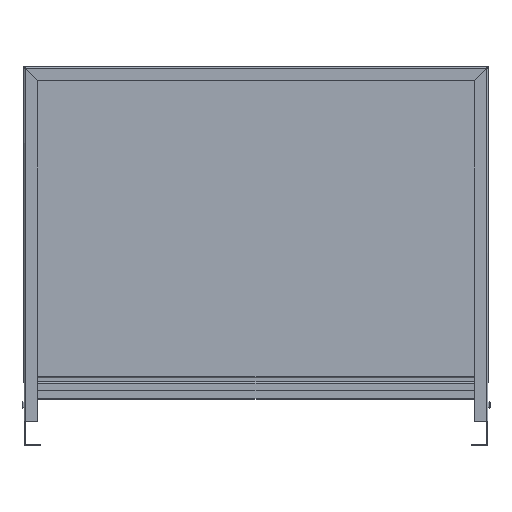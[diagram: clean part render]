
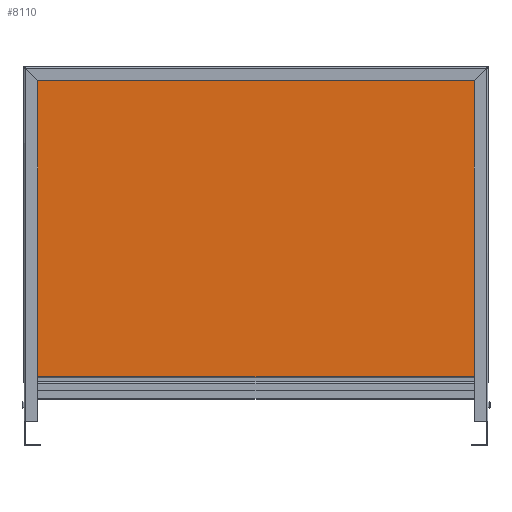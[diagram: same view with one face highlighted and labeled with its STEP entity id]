
A CAD part, front view. The second image highlights one B-rep face of the part: STEP entity #8110.
In plain terms, the highlighted planar face has unit normal (0, -1, 0).
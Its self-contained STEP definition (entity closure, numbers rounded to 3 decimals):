
#3022=CARTESIAN_POINT('',(-400.5,0.8,81.8));
#3023=VERTEX_POINT('',#3022);
#3056=CARTESIAN_POINT('',(-422.771,0.8,647.2));
#3057=VERTEX_POINT('',#3056);
#3087=CARTESIAN_POINT('',(-400.5,0.8,624.929));
#3088=VERTEX_POINT('',#3087);
#3095=CARTESIAN_POINT('',(-400.5,0.8,624.929));
#3096=DIRECTION('',(-0.707,-0.,0.707));
#3097=VECTOR('',#3096,31.496);
#3098=LINE('',#3095,#3097);
#3099=EDGE_CURVE('',#3088,#3057,#3098,.T.);
#3124=CARTESIAN_POINT('',(-400.5,0.8,624.929));
#3125=DIRECTION('',(0.,-0.,-1.));
#3126=VECTOR('',#3125,543.129);
#3127=LINE('',#3124,#3126);
#3128=EDGE_CURVE('',#3088,#3023,#3127,.T.);
#3280=CARTESIAN_POINT('',(400.5,0.8,81.8));
#3281=VERTEX_POINT('',#3280);
#3296=CARTESIAN_POINT('',(422.771,0.8,647.2));
#3297=VERTEX_POINT('',#3296);
#3350=CARTESIAN_POINT('',(400.5,0.8,624.929));
#3351=VERTEX_POINT('',#3350);
#3352=CARTESIAN_POINT('',(422.771,0.8,647.2));
#3353=DIRECTION('',(-0.707,0.,-0.707));
#3354=VECTOR('',#3353,31.496);
#3355=LINE('',#3352,#3354);
#3356=EDGE_CURVE('',#3297,#3351,#3355,.T.);
#3374=CARTESIAN_POINT('',(400.5,0.8,81.8));
#3375=DIRECTION('',(0.,0.,1.));
#3376=VECTOR('',#3375,543.129);
#3377=LINE('',#3374,#3376);
#3378=EDGE_CURVE('',#3281,#3351,#3377,.T.);
#3536=CARTESIAN_POINT('',(-422.629,0.8,647.2));
#3537=VERTEX_POINT('',#3536);
#3544=CARTESIAN_POINT('',(-400.429,0.8,625.));
#3545=VERTEX_POINT('',#3544);
#3546=CARTESIAN_POINT('',(-422.629,0.8,647.2));
#3547=DIRECTION('',(0.707,0.,-0.707));
#3548=VECTOR('',#3547,31.396);
#3549=LINE('',#3546,#3548);
#3550=EDGE_CURVE('',#3537,#3545,#3549,.T.);
#3597=CARTESIAN_POINT('',(422.629,0.8,647.2));
#3598=VERTEX_POINT('',#3597);
#3629=CARTESIAN_POINT('',(400.429,0.8,625.));
#3630=VERTEX_POINT('',#3629);
#3637=CARTESIAN_POINT('',(400.429,0.8,625.));
#3638=DIRECTION('',(0.707,-0.,0.707));
#3639=VECTOR('',#3638,31.396);
#3640=LINE('',#3637,#3639);
#3641=EDGE_CURVE('',#3630,#3598,#3640,.T.);
#3660=CARTESIAN_POINT('',(400.429,0.8,625.));
#3661=DIRECTION('',(-1.,0.,0.));
#3662=VECTOR('',#3661,800.859);
#3663=LINE('',#3660,#3662);
#3664=EDGE_CURVE('',#3630,#3545,#3663,.T.);
#8078=CARTESIAN_POINT('',(0.,0.8,0.));
#8079=DIRECTION('',(0.,1.,0.));
#8080=DIRECTION('',(-1.,0.,0.));
#8081=AXIS2_PLACEMENT_3D('',#8078,#8079,#8080);
#8082=PLANE('',#8081);
#8083=ORIENTED_EDGE('',*,*,#3099,.F.);
#8084=ORIENTED_EDGE('',*,*,#3128,.T.);
#8085=CARTESIAN_POINT('',(400.5,0.8,81.8));
#8086=DIRECTION('',(-1.,0.,0.));
#8087=VECTOR('',#8086,801.);
#8088=LINE('',#8085,#8087);
#8089=EDGE_CURVE('',#3281,#3023,#8088,.T.);
#8090=ORIENTED_EDGE('',*,*,#8089,.F.);
#8091=ORIENTED_EDGE('',*,*,#3378,.T.);
#8092=ORIENTED_EDGE('',*,*,#3356,.F.);
#8093=CARTESIAN_POINT('',(422.629,0.8,647.2));
#8094=DIRECTION('',(1.,0.,-0.));
#8095=VECTOR('',#8094,0.141);
#8096=LINE('',#8093,#8095);
#8097=EDGE_CURVE('',#3598,#3297,#8096,.T.);
#8098=ORIENTED_EDGE('',*,*,#8097,.F.);
#8099=ORIENTED_EDGE('',*,*,#3641,.F.);
#8100=ORIENTED_EDGE('',*,*,#3664,.T.);
#8101=ORIENTED_EDGE('',*,*,#3550,.F.);
#8102=CARTESIAN_POINT('',(-422.771,0.8,647.2));
#8103=DIRECTION('',(1.,0.,-0.));
#8104=VECTOR('',#8103,0.141);
#8105=LINE('',#8102,#8104);
#8106=EDGE_CURVE('',#3057,#3537,#8105,.T.);
#8107=ORIENTED_EDGE('',*,*,#8106,.F.);
#8108=EDGE_LOOP('',(#8083,#8084,#8090,#8091,#8092,#8098,#8099,#8100,#8101,#8107));
#8109=FACE_BOUND('',#8108,.T.);
#8110=ADVANCED_FACE('',(#8109),#8082,.F.);
